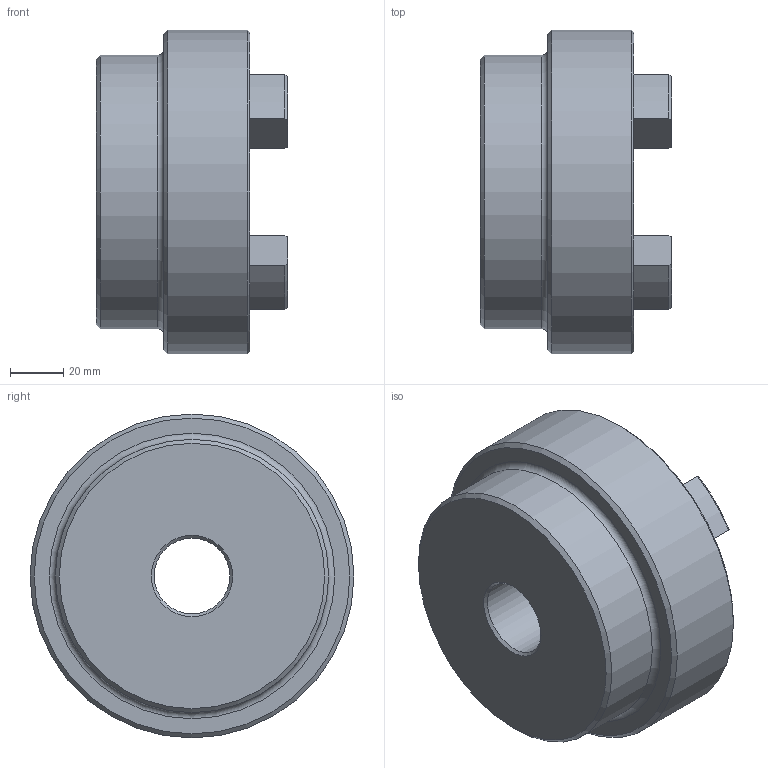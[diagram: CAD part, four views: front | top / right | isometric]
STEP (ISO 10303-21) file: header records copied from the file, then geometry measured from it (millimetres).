
FILE_DESCRIPTION (( 'STEP AP203' ), '1' );
FILE_NAME ('RC5.step', '2024-07-25T13:22:37', ( 'Adlan' ), ( '' ), 'SwSTEP 2.0', 'SolidWorks 2013', '' );
FILE_SCHEMA (( 'CONFIG_CONTROL_DESIGN' ));
Length unit declared in the file: inch
Products named in the file (1): RC5
Bounding box: 72.14 x 122.17 x 122.17 mm (x, y, z)
Volume: 453128.3 mm3; surface area: 58148 mm2
Topology: 1 solids, 1 shells, 76 faces, 189 edges, 117 vertices
Faces by surface type: cylinder 31, torus 17, plane 16, cone 12
Full cylindrical faces by diameter (mm): 28.588 x1, 103.124 x1, 122.174 x1
Entity records: 2349 total; most frequent: CARTESIAN_POINT 443, DIRECTION 416, ORIENTED_EDGE 358, EDGE_CURVE 179, AXIS2_PLACEMENT_3D 168, VERTEX_POINT 115, CIRCLE 91, EDGE_LOOP 88
